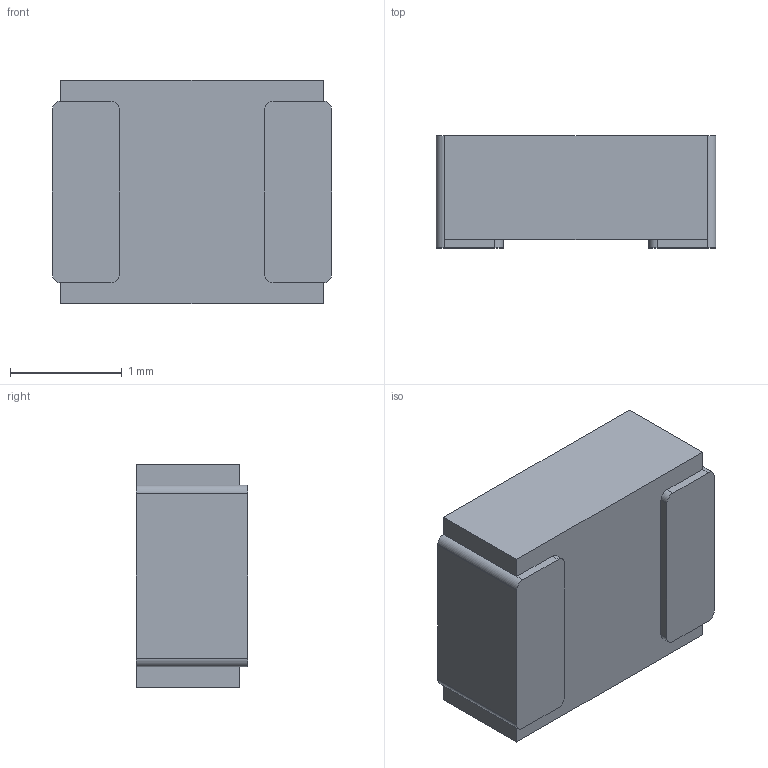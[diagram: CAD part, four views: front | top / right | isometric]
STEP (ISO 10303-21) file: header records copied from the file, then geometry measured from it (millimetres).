
FILE_DESCRIPTION (( 'STEP AP214' ), '1' );
FILE_NAME ('MGV2520101R0M-10.STEP', '2021-05-11T23:40:49', ( '' ), ( '' ), 'SwSTEP 2.0', 'SolidWorks 2017', '' );
FILE_SCHEMA (( 'AUTOMOTIVE_DESIGN' ));
Length unit declared in the file: millimetre
Products named in the file (1): MGV2520101R0M-10
Bounding box: 2.5 x 1 x 2 mm (x, y, z)
Volume: 4.7 mm3; surface area: 28.1 mm2
Topology: 3 solids, 3 shells, 30 faces, 68 edges, 44 vertices
Faces by surface type: plane 22, cylinder 8
Entity records: 888 total; most frequent: DIRECTION 146, CARTESIAN_POINT 143, ORIENTED_EDGE 136, EDGE_CURVE 68, LINE 52, VECTOR 52, AXIS2_PLACEMENT_3D 47, VERTEX_POINT 44
